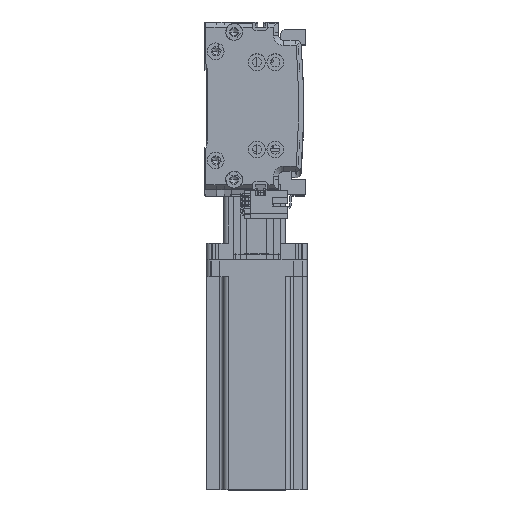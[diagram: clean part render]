
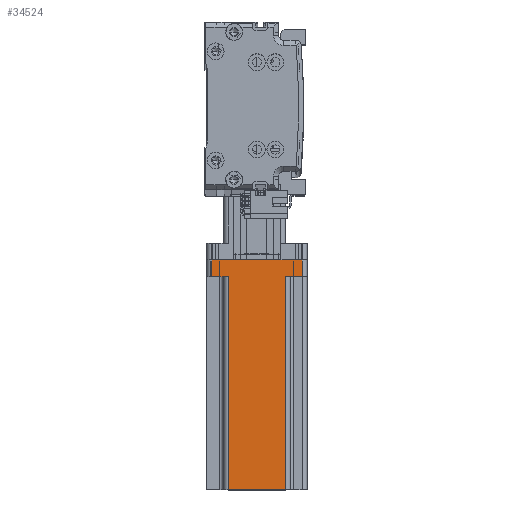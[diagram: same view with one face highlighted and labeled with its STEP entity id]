
A CAD part, top view. The second image highlights one B-rep face of the part: STEP entity #34524.
In plain terms, the highlighted planar face has unit normal (0, 0, 1) as drawn and (0, 1, 0) by its records, which use the part's own axes.
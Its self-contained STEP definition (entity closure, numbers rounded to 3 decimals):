
#696 = DIRECTION ( 'NONE',  ( 0., 0., 1. ) ) ;
#1279 = EDGE_CURVE ( 'NONE', #43932, #35803, #38873, .T. ) ;
#2404 = EDGE_CURVE ( 'NONE', #43932, #13293, #65867, .T. ) ;
#3188 = EDGE_LOOP ( 'NONE', ( #21494, #60466, #15372, #66328, #15294, #25288, #49656, #42729 ) ) ;
#6440 = CARTESIAN_POINT ( 'NONE',  ( 30., 30., 137. ) ) ;
#6537 = CARTESIAN_POINT ( 'NONE',  ( 17., 30., 10. ) ) ;
#7721 = CARTESIAN_POINT ( 'NONE',  ( 27., 30., 137. ) ) ;
#9037 = CARTESIAN_POINT ( 'NONE',  ( 30., 30., 0. ) ) ;
#9570 = EDGE_CURVE ( 'NONE', #59655, #21677, #13235, .T. ) ;
#10886 = VECTOR ( 'NONE', #31009, 1000. ) ;
#11706 = VECTOR ( 'NONE', #19781, 1000. ) ;
#11730 = DIRECTION ( 'NONE',  ( 1., 0., 0. ) ) ;
#13235 = LINE ( 'NONE', #49186, #39438 ) ;
#13293 = VERTEX_POINT ( 'NONE', #19566 ) ;
#15294 = ORIENTED_EDGE ( 'NONE', *, *, #1279, .F. ) ;
#15372 = ORIENTED_EDGE ( 'NONE', *, *, #16582, .F. ) ;
#16037 = VECTOR ( 'NONE', #44393, 1000. ) ;
#16066 = EDGE_CURVE ( 'NONE', #56228, #59655, #42898, .T. ) ;
#16582 = EDGE_CURVE ( 'NONE', #61967, #51149, #52585, .T. ) ;
#19566 = CARTESIAN_POINT ( 'NONE',  ( 27., 30., 0. ) ) ;
#19781 = DIRECTION ( 'NONE',  ( -1., 0., 0. ) ) ;
#21494 = ORIENTED_EDGE ( 'NONE', *, *, #9570, .T. ) ;
#21677 = VERTEX_POINT ( 'NONE', #34959 ) ;
#22317 = VECTOR ( 'NONE', #696, 1000. ) ;
#25288 = ORIENTED_EDGE ( 'NONE', *, *, #2404, .T. ) ;
#25704 = LINE ( 'NONE', #9037, #11706 ) ;
#27156 = AXIS2_PLACEMENT_3D ( 'NONE', #6440, #43045, #11730 ) ;
#27771 = EDGE_CURVE ( 'NONE', #21677, #51149, #36217, .T. ) ;
#29953 = CARTESIAN_POINT ( 'NONE',  ( -27., 30., 137. ) ) ;
#30062 = LINE ( 'NONE', #49416, #16037 ) ;
#31009 = DIRECTION ( 'NONE',  ( -1., 0., 0. ) ) ;
#34305 = EDGE_CURVE ( 'NONE', #13293, #56228, #25704, .T. ) ;
#34524 = ADVANCED_FACE ( 'NONE', ( #37855 ), #53327, .F. ) ;
#34959 = CARTESIAN_POINT ( 'NONE',  ( -17., 30., 10. ) ) ;
#35803 = VERTEX_POINT ( 'NONE', #6537 ) ;
#36217 = LINE ( 'NONE', #58458, #22317 ) ;
#37855 = FACE_OUTER_BOUND ( 'NONE', #3188, .T. ) ;
#38425 = CARTESIAN_POINT ( 'NONE',  ( -27., 30., 0. ) ) ;
#38873 = LINE ( 'NONE', #52033, #63297 ) ;
#39438 = VECTOR ( 'NONE', #44150, 1000. ) ;
#42729 = ORIENTED_EDGE ( 'NONE', *, *, #16066, .T. ) ;
#42898 = LINE ( 'NONE', #29953, #55168 ) ;
#43045 = DIRECTION ( 'NONE',  ( 0., -1., 0. ) ) ;
#43932 = VERTEX_POINT ( 'NONE', #49197 ) ;
#44150 = DIRECTION ( 'NONE',  ( 1., 0., 0. ) ) ;
#44393 = DIRECTION ( 'NONE',  ( 0., 0., -1. ) ) ;
#47314 = CARTESIAN_POINT ( 'NONE',  ( -27., 30., 10. ) ) ;
#48425 = EDGE_CURVE ( 'NONE', #61967, #35803, #30062, .T. ) ;
#49186 = CARTESIAN_POINT ( 'NONE',  ( -20., 30., 10. ) ) ;
#49197 = CARTESIAN_POINT ( 'NONE',  ( 27., 30., 10. ) ) ;
#49416 = CARTESIAN_POINT ( 'NONE',  ( 17., 30., 137. ) ) ;
#49656 = ORIENTED_EDGE ( 'NONE', *, *, #34305, .T. ) ;
#50414 = CARTESIAN_POINT ( 'NONE',  ( -17., 30., 137. ) ) ;
#51149 = VERTEX_POINT ( 'NONE', #50414 ) ;
#52002 = VECTOR ( 'NONE', #65265, 1000. ) ;
#52033 = CARTESIAN_POINT ( 'NONE',  ( 20., 30., 10. ) ) ;
#52585 = LINE ( 'NONE', #62183, #10886 ) ;
#53327 = PLANE ( 'NONE',  #27156 ) ;
#55168 = VECTOR ( 'NONE', #66373, 1000. ) ;
#55413 = CARTESIAN_POINT ( 'NONE',  ( 17., 30., 137. ) ) ;
#56228 = VERTEX_POINT ( 'NONE', #38425 ) ;
#58458 = CARTESIAN_POINT ( 'NONE',  ( -17., 30., 137. ) ) ;
#59655 = VERTEX_POINT ( 'NONE', #47314 ) ;
#60466 = ORIENTED_EDGE ( 'NONE', *, *, #27771, .T. ) ;
#61967 = VERTEX_POINT ( 'NONE', #55413 ) ;
#62183 = CARTESIAN_POINT ( 'NONE',  ( 30., 30., 137. ) ) ;
#63297 = VECTOR ( 'NONE', #67760, 1000. ) ;
#65265 = DIRECTION ( 'NONE',  ( 0., 0., -1. ) ) ;
#65867 = LINE ( 'NONE', #7721, #52002 ) ;
#66328 = ORIENTED_EDGE ( 'NONE', *, *, #48425, .T. ) ;
#66373 = DIRECTION ( 'NONE',  ( 0., 0., 1. ) ) ;
#67760 = DIRECTION ( 'NONE',  ( -1., 0., 0. ) ) ;
